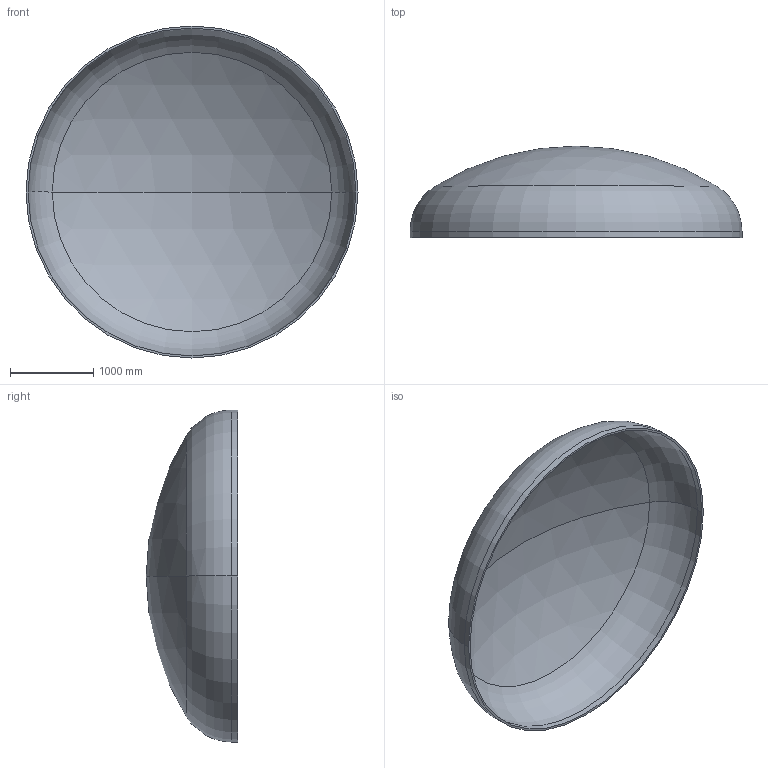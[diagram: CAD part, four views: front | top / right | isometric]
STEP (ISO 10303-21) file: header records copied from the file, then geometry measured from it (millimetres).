
FILE_DESCRIPTION (( 'STEP AP203' ), '1' );
FILE_NAME ('DIN 28013 Korbbogenform_-_Boden DIN 28013 - 4000 x 75 - I - s=25.step', '2016-07-01T22:11:26', ( '' ), ( '' ), 'SwSTEP 2.0', 'SolidWorks 2013', '' );
FILE_SCHEMA (( 'CONFIG_CONTROL_DESIGN' ));
Length unit declared in the file: millimetre
Products named in the file (1): DIN 28013 Korbbogenform_-_Boden DIN 28013 - 4000 x 75 - I - s=25
Bounding box: 4000 x 1101.68 x 4000 mm (x, y, z)
Volume: 454811987 mm3; surface area: 36698449.5 mm2
Topology: 1 solids, 1 shells, 13 faces, 24 edges, 14 vertices
Faces by surface type: torus 4, cylinder 4, sphere 4, plane 1
Entity records: 407 total; most frequent: DIRECTION 72, CARTESIAN_POINT 52, ORIENTED_EDGE 48, AXIS2_PLACEMENT_3D 34, EDGE_CURVE 24, CIRCLE 20, VERTEX_POINT 14, EDGE_LOOP 14
